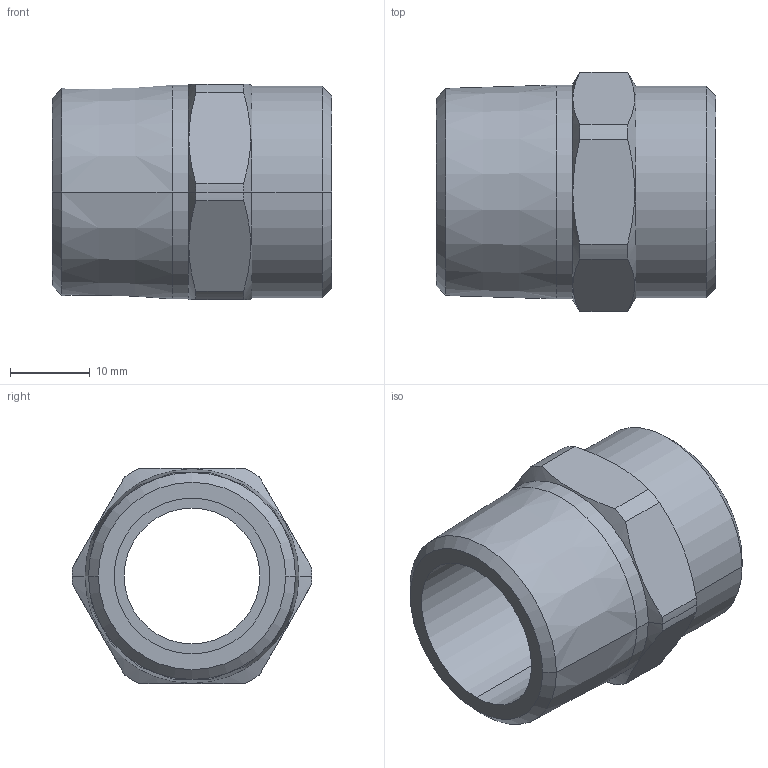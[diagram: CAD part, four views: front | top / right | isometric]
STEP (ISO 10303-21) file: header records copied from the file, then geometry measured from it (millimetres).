
FILE_DESCRIPTION((''),'2;1');
FILE_NAME('G:\BIR\Pajchrowski\projekty\8000 models\4376g\4376g STEP\14376_34-34.stp','2006-04-28T11:34:25',('pajchrowski'),(''),'Autodesk Inventor 8','Autodesk Inventor 8','');
FILE_SCHEMA(('AUTOMOTIVE_DESIGN { 1 0 10303 214 1 1 1 1 }'));
Length unit declared in the file: millimetre
Products named in the file (1): 14376_34-34
Bounding box: 35 x 30 x 27 mm (x, y, z)
Volume: 10180.8 mm3; surface area: 5583.9 mm2
Topology: 1 solids, 1 shells, 35 faces, 82 edges, 50 vertices
Faces by surface type: cylinder 16, cone 10, plane 9
Entity records: 1017 total; most frequent: CARTESIAN_POINT 192, DIRECTION 180, ORIENTED_EDGE 164, EDGE_CURVE 82, AXIS2_PLACEMENT_3D 74, VERTEX_POINT 50, CIRCLE 38, EDGE_LOOP 38
